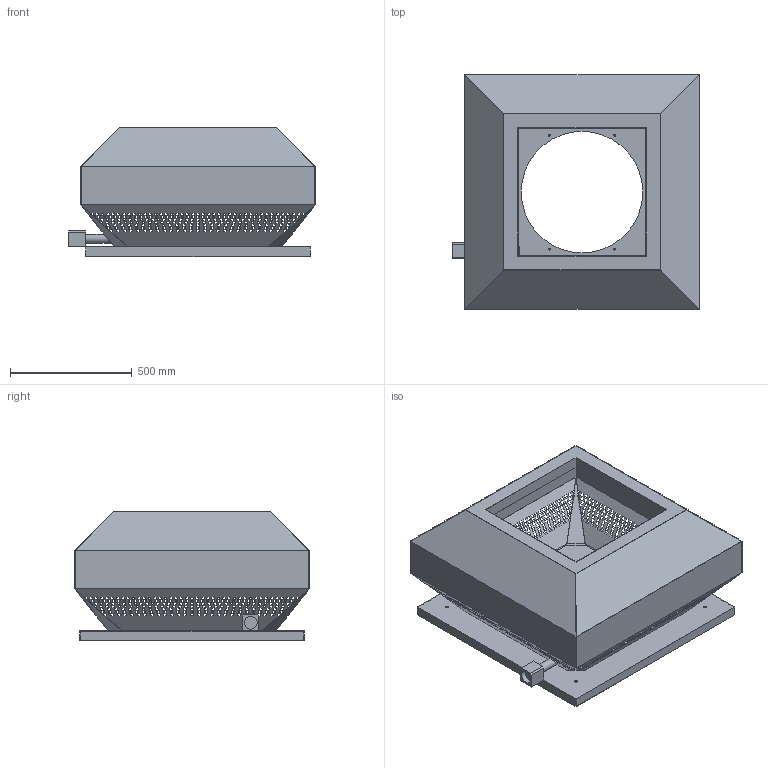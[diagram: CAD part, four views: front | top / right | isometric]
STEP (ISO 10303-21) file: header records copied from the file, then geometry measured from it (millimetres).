
FILE_DESCRIPTION(/* description */ (''),/* implementation_level */ '2;1');
FILE_NAME(/* name */ 'Z:\Output\RDD_500-4_EX-07416-001.stp',/* time_stamp */ '2020-06-25T16:59:25+02:00',/* author */ ('engineering1'),/* organization */ (''),/* preprocessor_version */ 'ST-DEVELOPER v17.2',/* originating_system */ 'Autodesk Inventor 2019',/* authorisation */ '');
FILE_SCHEMA (('AUTOMOTIVE_DESIGN { 1 0 10303 214 3 1 1 }'));
Products named in the file (1): RD-2
Bounding box: 1015.5 x 966 x 531 mm (x, y, z)
Volume: 7457309.2 mm3; surface area: 6100238.2 mm2
Topology: 1 solids, 1 shells, 3871 faces, 11762 edges, 7796 vertices
Faces by surface type: plane 3857, cylinder 14
Full cylindrical faces by diameter (mm): 8 x6, 12 x4, 35.4 x2, 53.1 x1, 500 x1
Entity records: 134410 total; most frequent: ORIENTED_EDGE 23524, CARTESIAN_POINT 23430, DIRECTION 19534, EDGE_CURVE 11762, LINE 11734, VECTOR 11734, VERTEX_POINT 7796, EDGE_LOOP 5678
